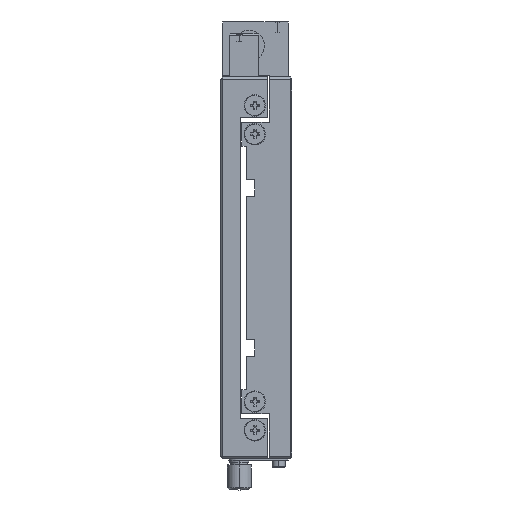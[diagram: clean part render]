
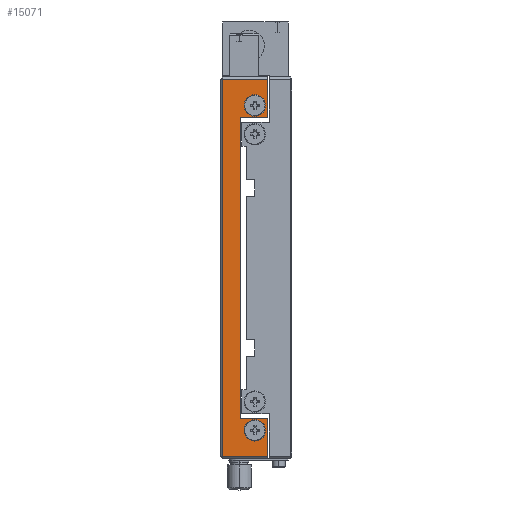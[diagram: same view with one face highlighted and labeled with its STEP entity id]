
A CAD part, left-side view. The second image highlights one B-rep face of the part: STEP entity #15071.
In plain terms, the highlighted planar face has unit normal (-1, 0, 0) as drawn and (0, 0, -1) by its records, which use the part's own axes.
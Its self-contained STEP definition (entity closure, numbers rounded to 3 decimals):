
#878 = CARTESIAN_POINT ( 'NONE',  ( -65.414, 27.327, -80. ) ) ;
#879 = CARTESIAN_POINT ( 'NONE',  ( -65.414, 18.927, -80. ) ) ;
#883 = CARTESIAN_POINT ( 'NONE',  ( -73.814, 18.927, -80. ) ) ;
#884 = CARTESIAN_POINT ( 'NONE',  ( -73.814, 27.327, -80. ) ) ;
#894 = CARTESIAN_POINT ( 'NONE',  ( 70.586, 27.327, -80. ) ) ;
#895 = CARTESIAN_POINT ( 'NONE',  ( 70.586, 18.927, -80. ) ) ;
#899 = CARTESIAN_POINT ( 'NONE',  ( 62.186, 18.927, -80. ) ) ;
#900 = CARTESIAN_POINT ( 'NONE',  ( 62.186, 27.327, -80. ) ) ;
#2911 = CARTESIAN_POINT ( 'NONE',  ( 61.386, 33.327, -80. ) ) ;
#2966 = CARTESIAN_POINT ( 'NONE',  ( -64.614, 33.327, -80. ) ) ;
#2973 = CARTESIAN_POINT ( 'NONE',  ( 61.386, 21.827, -80. ) ) ;
#2974 = CARTESIAN_POINT ( 'NONE',  ( 77.386, 21.827, -80. ) ) ;
#2976 = CARTESIAN_POINT ( 'NONE',  ( 77.386, 40.827, -80. ) ) ;
#2981 = CARTESIAN_POINT ( 'NONE',  ( -80.614, 40.827, -80. ) ) ;
#2982 = CARTESIAN_POINT ( 'NONE',  ( -80.614, 21.827, -80. ) ) ;
#2988 = CARTESIAN_POINT ( 'NONE',  ( -64.614, 21.827, -80. ) ) ;
#3085 = LINE ( 'NONE', #3171, #7389 ) ;
#3171 = CARTESIAN_POINT ( 'NONE',  ( -81.614, 21.827, -80. ) ) ;
#3172 = DIRECTION ( 'NONE',  ( 1., 0., 0. ) ) ;
#3176 = LINE ( 'NONE', #3178, #7395 ) ;
#3178 = CARTESIAN_POINT ( 'NONE',  ( -80.614, 41.827, -80. ) ) ;
#3179 = DIRECTION ( 'NONE',  ( 0., -1., 0. ) ) ;
#7389 = VECTOR ( 'NONE', #3172, 1000. ) ;
#7395 = VECTOR ( 'NONE', #3179, 1000. ) ;
#11520 = ORIENTED_EDGE ( 'NONE', *, *, #15154, .F. ) ;
#11523 = ORIENTED_EDGE ( 'NONE', *, *, #15155, .T. ) ;
#11532 = ORIENTED_EDGE ( 'NONE', *, *, #14464, .F. ) ;
#11541 = ORIENTED_EDGE ( 'NONE', *, *, #25047, .F. ) ;
#11545 = ORIENTED_EDGE ( 'NONE', *, *, #15151, .T. ) ;
#11546 = ORIENTED_EDGE ( 'NONE', *, *, #15152, .F. ) ;
#11547 = ORIENTED_EDGE ( 'NONE', *, *, #15153, .F. ) ;
#11553 = ORIENTED_EDGE ( 'NONE', *, *, #15150, .F. ) ;
#11567 = ORIENTED_EDGE ( 'NONE', *, *, #15156, .F. ) ;
#11573 = ORIENTED_EDGE ( 'NONE', *, *, #25045, .F. ) ;
#11577 = ORIENTED_EDGE ( 'NONE', *, *, #14469, .F. ) ;
#11578 = ORIENTED_EDGE ( 'NONE', *, *, #15157, .F. ) ;
#12094 = VECTOR ( 'NONE', #27829, 1000. ) ;
#12103 = VECTOR ( 'NONE', #27827, 1000. ) ;
#12104 = VECTOR ( 'NONE', #27824, 1000. ) ;
#12106 = VECTOR ( 'NONE', #27832, 1000. ) ;
#12107 = VECTOR ( 'NONE', #27835, 1000. ) ;
#12108 = VECTOR ( 'NONE', #27838, 1000. ) ;
#14464 = EDGE_CURVE ( 'NONE', #26598, #26605, #14842, .T. ) ;
#14469 = EDGE_CURVE ( 'NONE', #26611, #26618, #14845, .T. ) ;
#14842 =( BOUNDED_CURVE ( )  B_SPLINE_CURVE ( 3, ( #878, #879, #883, #884 ),
 .UNSPECIFIED., .F., .T. ) 
 B_SPLINE_CURVE_WITH_KNOTS ( ( 4, 4 ),
 ( 0.5, 1. ),
 .UNSPECIFIED. ) 
 CURVE ( )  GEOMETRIC_REPRESENTATION_ITEM ( )  RATIONAL_B_SPLINE_CURVE ( ( 1., 0.333, 0.333, 1. ) ) 
 REPRESENTATION_ITEM ( '' )  );
#14845 =( BOUNDED_CURVE ( )  B_SPLINE_CURVE ( 3, ( #894, #895, #899, #900 ),
 .UNSPECIFIED., .F., .T. ) 
 B_SPLINE_CURVE_WITH_KNOTS ( ( 4, 4 ),
 ( 0.5, 1. ),
 .UNSPECIFIED. ) 
 CURVE ( )  GEOMETRIC_REPRESENTATION_ITEM ( )  RATIONAL_B_SPLINE_CURVE ( ( 1., 0.333, 0.333, 1. ) ) 
 REPRESENTATION_ITEM ( '' )  );
#15071 = ADVANCED_FACE ( 'NONE', ( #27320, #27322, #27323 ), #27324, .F. ) ;
#15150 = EDGE_CURVE ( 'NONE', #24557, #24535, #27760, .T. ) ;
#15151 = EDGE_CURVE ( 'NONE', #24480, #24535, #27825, .T. ) ;
#15152 = EDGE_CURVE ( 'NONE', #24480, #24542, #27761, .T. ) ;
#15153 = EDGE_CURVE ( 'NONE', #24542, #24543, #27830, .T. ) ;
#15154 = EDGE_CURVE ( 'NONE', #24543, #24545, #27833, .T. ) ;
#15155 = EDGE_CURVE ( 'NONE', #24550, #24545, #27836, .T. ) ;
#15156 = EDGE_CURVE ( 'NONE', #26618, #26611, #28249, .T. ) ;
#15157 = EDGE_CURVE ( 'NONE', #26605, #26598, #19519, .T. ) ;
#16905 = CARTESIAN_POINT ( 'NONE',  ( -65.414, 27.327, -80. ) ) ;
#16912 = CARTESIAN_POINT ( 'NONE',  ( -73.814, 27.327, -80. ) ) ;
#16918 = CARTESIAN_POINT ( 'NONE',  ( 70.586, 27.327, -80. ) ) ;
#16925 = CARTESIAN_POINT ( 'NONE',  ( 62.186, 27.327, -80. ) ) ;
#19519 =( BOUNDED_CURVE ( )  B_SPLINE_CURVE ( 3, ( #27839, #27844, #27845, #27846 ),
 .UNSPECIFIED., .F., .T. ) 
 B_SPLINE_CURVE_WITH_KNOTS ( ( 4, 4 ),
 ( 0., 0.5 ),
 .UNSPECIFIED. ) 
 CURVE ( )  GEOMETRIC_REPRESENTATION_ITEM ( )  RATIONAL_B_SPLINE_CURVE ( ( 1., 0.333, 0.333, 1. ) ) 
 REPRESENTATION_ITEM ( '' )  );
#24480 = VERTEX_POINT ( 'NONE', #2911 ) ;
#24535 = VERTEX_POINT ( 'NONE', #2966 ) ;
#24542 = VERTEX_POINT ( 'NONE', #2973 ) ;
#24543 = VERTEX_POINT ( 'NONE', #2974 ) ;
#24545 = VERTEX_POINT ( 'NONE', #2976 ) ;
#24550 = VERTEX_POINT ( 'NONE', #2981 ) ;
#24551 = VERTEX_POINT ( 'NONE', #2982 ) ;
#24557 = VERTEX_POINT ( 'NONE', #2988 ) ;
#25045 = EDGE_CURVE ( 'NONE', #24551, #24557, #3085, .T. ) ;
#25047 = EDGE_CURVE ( 'NONE', #24550, #24551, #3176, .T. ) ;
#26598 = VERTEX_POINT ( 'NONE', #16905 ) ;
#26605 = VERTEX_POINT ( 'NONE', #16912 ) ;
#26611 = VERTEX_POINT ( 'NONE', #16918 ) ;
#26618 = VERTEX_POINT ( 'NONE', #16925 ) ;
#26703 = EDGE_LOOP ( 'NONE', ( #11578, #11532 ) ) ;
#26712 = EDGE_LOOP ( 'NONE', ( #11567, #11577 ) ) ;
#26714 = EDGE_LOOP ( 'NONE', ( #11523, #11520, #11547, #11546, #11545, #11553, #11573, #11541 ) ) ;
#27069 = AXIS2_PLACEMENT_3D ( 'NONE', #27319, #27316, #27326 ) ;
#27316 = DIRECTION ( 'NONE',  ( 0., 0., 1. ) ) ;
#27319 = CARTESIAN_POINT ( 'NONE',  ( -81.614, 41.827, -80. ) ) ;
#27320 = FACE_BOUND ( 'NONE', #26703, .T. ) ;
#27322 = FACE_BOUND ( 'NONE', #26712, .T. ) ;
#27323 = FACE_OUTER_BOUND ( 'NONE', #26714, .T. ) ;
#27324 = PLANE ( 'NONE',  #27069 ) ;
#27326 = DIRECTION ( 'NONE',  ( 1., 0., 0. ) ) ;
#27760 = LINE ( 'NONE', #27823, #12104 ) ;
#27761 = LINE ( 'NONE', #27828, #12094 ) ;
#27820 = CARTESIAN_POINT ( 'NONE',  ( 62.186, 27.327, -80. ) ) ;
#27823 = CARTESIAN_POINT ( 'NONE',  ( -64.614, 41.827, -80. ) ) ;
#27824 = DIRECTION ( 'NONE',  ( 0., 1., 0. ) ) ;
#27825 = LINE ( 'NONE', #27826, #12103 ) ;
#27826 = CARTESIAN_POINT ( 'NONE',  ( -64.614, 33.327, -80. ) ) ;
#27827 = DIRECTION ( 'NONE',  ( -1., 0., 0. ) ) ;
#27828 = CARTESIAN_POINT ( 'NONE',  ( 61.386, 41.827, -80. ) ) ;
#27829 = DIRECTION ( 'NONE',  ( 0., -1., 0. ) ) ;
#27830 = LINE ( 'NONE', #27831, #12106 ) ;
#27831 = CARTESIAN_POINT ( 'NONE',  ( -81.614, 21.827, -80. ) ) ;
#27832 = DIRECTION ( 'NONE',  ( 1., 0., 0. ) ) ;
#27833 = LINE ( 'NONE', #27834, #12107 ) ;
#27834 = CARTESIAN_POINT ( 'NONE',  ( 77.386, 41.827, -80. ) ) ;
#27835 = DIRECTION ( 'NONE',  ( 0., 1., 0. ) ) ;
#27836 = LINE ( 'NONE', #27837, #12108 ) ;
#27837 = CARTESIAN_POINT ( 'NONE',  ( 78.386, 40.827, -80. ) ) ;
#27838 = DIRECTION ( 'NONE',  ( 1., 0., 0. ) ) ;
#27839 = CARTESIAN_POINT ( 'NONE',  ( -73.814, 27.327, -80. ) ) ;
#27840 = CARTESIAN_POINT ( 'NONE',  ( 62.186, 35.727, -80. ) ) ;
#27841 = CARTESIAN_POINT ( 'NONE',  ( 70.586, 35.727, -80. ) ) ;
#27842 = CARTESIAN_POINT ( 'NONE',  ( 70.586, 27.327, -80. ) ) ;
#27844 = CARTESIAN_POINT ( 'NONE',  ( -73.814, 35.727, -80. ) ) ;
#27845 = CARTESIAN_POINT ( 'NONE',  ( -65.414, 35.727, -80. ) ) ;
#27846 = CARTESIAN_POINT ( 'NONE',  ( -65.414, 27.327, -80. ) ) ;
#28249 =( BOUNDED_CURVE ( )  B_SPLINE_CURVE ( 3, ( #27820, #27840, #27841, #27842 ),
 .UNSPECIFIED., .F., .T. ) 
 B_SPLINE_CURVE_WITH_KNOTS ( ( 4, 4 ),
 ( 0., 0.5 ),
 .UNSPECIFIED. ) 
 CURVE ( )  GEOMETRIC_REPRESENTATION_ITEM ( )  RATIONAL_B_SPLINE_CURVE ( ( 1., 0.333, 0.333, 1. ) ) 
 REPRESENTATION_ITEM ( '' )  );
